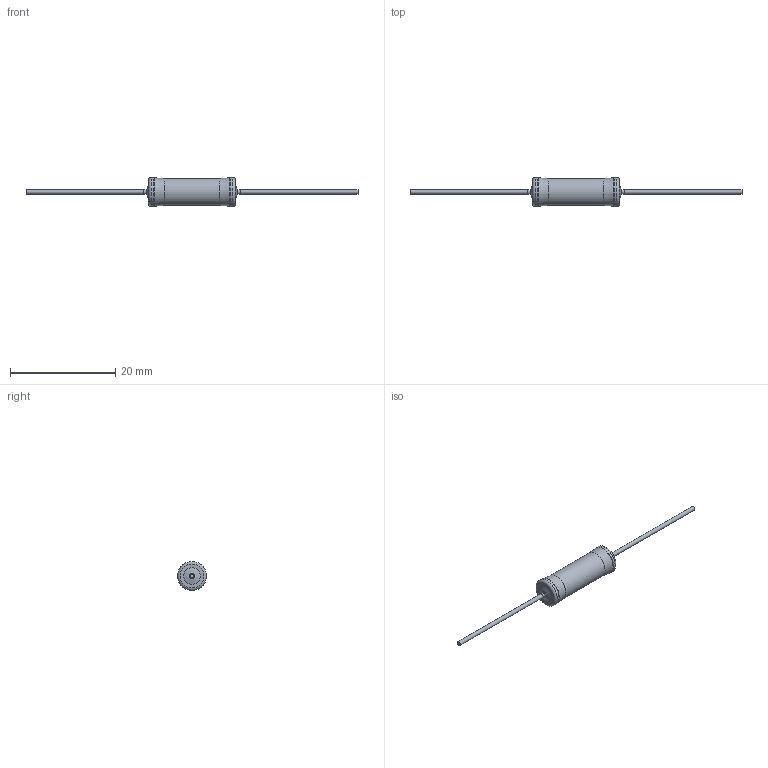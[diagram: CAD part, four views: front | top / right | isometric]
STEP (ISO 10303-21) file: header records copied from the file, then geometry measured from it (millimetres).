
FILE_DESCRIPTION(/* description */ (''),/* implementation_level */ '2;1');
FILE_NAME(/* name */ 'P:\Work\User\Special\CAD\Marketing\AC04.stp',/* time_stamp */ '2020-02-19T08:48:51+01:00',/* author */ ('klepschi'),/* organization */ (''),/* preprocessor_version */ 'ST-DEVELOPER v16.5',/* originating_system */ 'Autodesk Inventor 2017',/* authorisation */ '');
FILE_SCHEMA (('AUTOMOTIVE_DESIGN { 1 0 10303 214 3 1 1 }'));
Length unit declared in the file: millimetre
Products named in the file (1): AC04
Bounding box: 63 x 5.5 x 5.5 mm (x, y, z)
Volume: 371.5 mm3; surface area: 424.5 mm2
Topology: 1 solids, 1 shells, 27 faces, 47 edges, 28 vertices
Faces by surface type: cylinder 9, plane 8, torus 8, cone 2
Full cylindrical faces by diameter (mm): 0.798 x2, 0.8 x4, 5.1 x1, 5.5 x2
Entity records: 605 total; most frequent: DIRECTION 108, CARTESIAN_POINT 80, AXIS2_PLACEMENT_3D 54, EDGE_LOOP 52, ORIENTED_EDGE 52, STYLED_ITEM 28, FACE_OUTER_BOUND 27, ADVANCED_FACE 27
